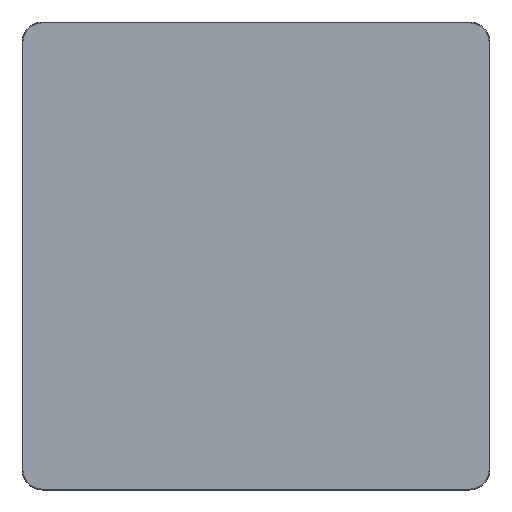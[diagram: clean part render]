
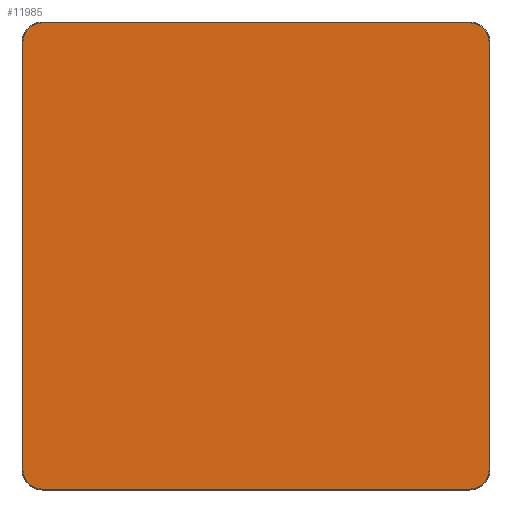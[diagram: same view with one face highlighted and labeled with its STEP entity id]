
A CAD part, top view. The second image highlights one B-rep face of the part: STEP entity #11985.
In plain terms, the highlighted planar face has unit normal (0, 0, 1).
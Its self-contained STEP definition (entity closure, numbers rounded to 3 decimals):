
#11910=CARTESIAN_POINT('',(0.,0.,20.));
#11911=DIRECTION('',(1.,0.,0.));
#11912=DIRECTION('',(0.,0.,1.));
#11913=AXIS2_PLACEMENT_3D('',#11910,#11912,#11911);
#11914=PLANE('',#11913);
#11915=CARTESIAN_POINT('',(-365.,-398.5,20.));
#11916=VERTEX_POINT('',#11915);
#11917=CARTESIAN_POINT('',(365.,-398.5,20.));
#11918=VERTEX_POINT('',#11917);
#11919=CARTESIAN_POINT('',(-365.,-398.5,20.));
#11920=DIRECTION('',(1.,0.,0.));
#11921=VECTOR('',#11920,730.);
#11922=LINE('',#11919,#11921);
#11923=EDGE_CURVE('',#11916,#11918,#11922,.T.);
#11924=ORIENTED_EDGE('E105',*,*,#11923,.T.);
#11925=CARTESIAN_POINT('',(398.5,-365.,20.));
#11926=VERTEX_POINT('',#11925);
#11927=CARTESIAN_POINT('',(365.,-365.,20.));
#11928=DIRECTION('',(0.,-1.,0.));
#11929=DIRECTION('',(0.,0.,1.));
#11930=AXIS2_PLACEMENT_3D('',#11927,#11929,#11928);
#11931=CIRCLE('',#11930,33.5);
#11932=EDGE_CURVE('',#11918,#11926,#11931,.T.);
#11933=ORIENTED_EDGE('E107',*,*,#11932,.T.);
#11934=CARTESIAN_POINT('',(398.5,365.,20.));
#11935=VERTEX_POINT('',#11934);
#11936=CARTESIAN_POINT('',(398.5,-365.,20.));
#11937=DIRECTION('',(0.,1.,0.));
#11938=VECTOR('',#11937,730.);
#11939=LINE('',#11936,#11938);
#11940=EDGE_CURVE('',#11926,#11935,#11939,.T.);
#11941=ORIENTED_EDGE('E109',*,*,#11940,.T.);
#11942=CARTESIAN_POINT('',(365.,398.5,20.));
#11943=VERTEX_POINT('',#11942);
#11944=CARTESIAN_POINT('',(365.,365.,20.));
#11945=DIRECTION('',(1.,0.,0.));
#11946=DIRECTION('',(0.,0.,1.));
#11947=AXIS2_PLACEMENT_3D('',#11944,#11946,#11945);
#11948=CIRCLE('',#11947,33.5);
#11949=EDGE_CURVE('',#11935,#11943,#11948,.T.);
#11950=ORIENTED_EDGE('E111',*,*,#11949,.T.);
#11951=CARTESIAN_POINT('',(-365.,398.5,20.));
#11952=VERTEX_POINT('',#11951);
#11953=CARTESIAN_POINT('',(365.,398.5,20.));
#11954=DIRECTION('',(-1.,0.,0.));
#11955=VECTOR('',#11954,730.);
#11956=LINE('',#11953,#11955);
#11957=EDGE_CURVE('',#11943,#11952,#11956,.T.);
#11958=ORIENTED_EDGE('E113',*,*,#11957,.T.);
#11959=CARTESIAN_POINT('',(-398.5,365.,20.));
#11960=VERTEX_POINT('',#11959);
#11961=CARTESIAN_POINT('',(-365.,365.,20.));
#11962=DIRECTION('',(0.,1.,0.));
#11963=DIRECTION('',(0.,0.,1.));
#11964=AXIS2_PLACEMENT_3D('',#11961,#11963,#11962);
#11965=CIRCLE('',#11964,33.5);
#11966=EDGE_CURVE('',#11952,#11960,#11965,.T.);
#11967=ORIENTED_EDGE('E115',*,*,#11966,.T.);
#11968=CARTESIAN_POINT('',(-398.5,-365.,20.));
#11969=VERTEX_POINT('',#11968);
#11970=CARTESIAN_POINT('',(-398.5,365.,20.));
#11971=DIRECTION('',(0.,-1.,0.));
#11972=VECTOR('',#11971,730.);
#11973=LINE('',#11970,#11972);
#11974=EDGE_CURVE('',#11960,#11969,#11973,.T.);
#11975=ORIENTED_EDGE('E117',*,*,#11974,.T.);
#11976=CARTESIAN_POINT('',(-365.,-365.,20.));
#11977=DIRECTION('',(-1.,0.,0.));
#11978=DIRECTION('',(0.,0.,1.));
#11979=AXIS2_PLACEMENT_3D('',#11976,#11978,#11977);
#11980=CIRCLE('',#11979,33.5);
#11981=EDGE_CURVE('',#11969,#11916,#11980,.T.);
#11982=ORIENTED_EDGE('E119',*,*,#11981,.T.);
#11983=EDGE_LOOP('',(#11924,#11933,#11941,#11950,#11958,#11967,#11975,#11982));
#11984=FACE_OUTER_BOUND('',#11983,.T.);
#11985=ADVANCED_FACE('F2',(#11984),#11914,.T.);
